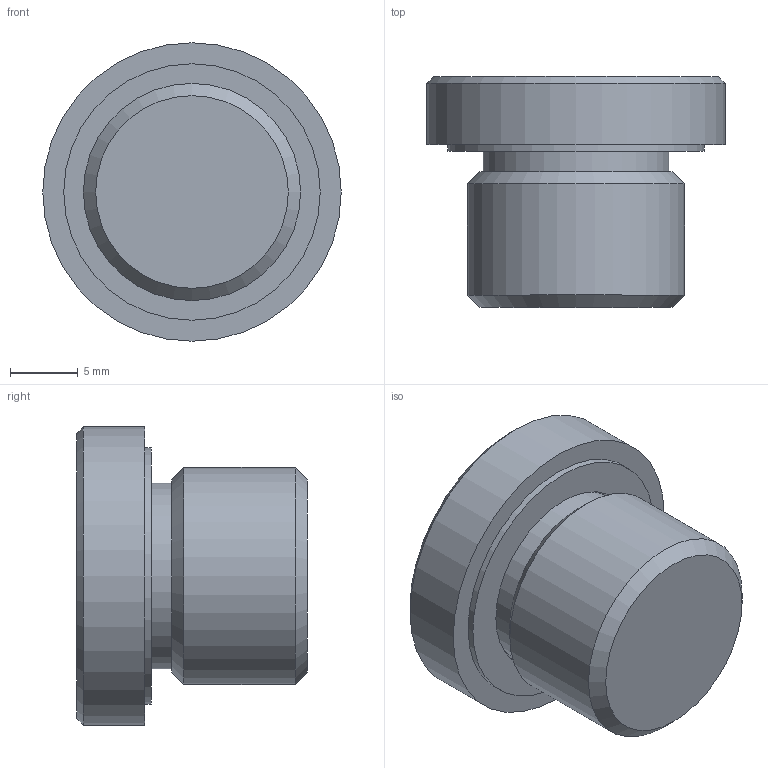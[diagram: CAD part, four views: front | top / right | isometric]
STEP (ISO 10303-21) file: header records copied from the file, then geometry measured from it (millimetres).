
FILE_DESCRIPTION( ( 'STEP AP203' ), '1' );
FILE_NAME( 'C:/Temp/Ganter_Step_05_03_2020/data/3_5/gn749/gn749_b/Threaded plug GN 749-M16x1,5-B.stp', '2020-03-12T13:41:39', ( 'License CC BY-ND 4.0' ), ( 'CADENAS' ), ' ', 'PARTsolutions', ' ' );
FILE_SCHEMA( ( 'CONFIG_CONTROL_DESIGN' ) );
Length unit declared in the file: millimetre
Products named in the file (1): _Threaded plug GN 749-M16x1,5-B
Bounding box: 22 x 17 x 22 mm (x, y, z)
Volume: 3865.9 mm3; surface area: 1955.4 mm2
Topology: 1 solids, 1 shells, 21 faces, 41 edges, 27 vertices
Faces by surface type: plane 13, cylinder 5, cone 3
Full cylindrical faces by diameter (mm): 13.7 x1, 14.1 x1, 16 x1, 18.9 x1, 22 x1
Entity records: 526 total; most frequent: DIRECTION 88, CARTESIAN_POINT 78, ORIENTED_EDGE 62, AXIS2_PLACEMENT_3D 35, EDGE_LOOP 34, EDGE_CURVE 31, FACE_OUTER_BOUND 26, VERTEX_POINT 25
